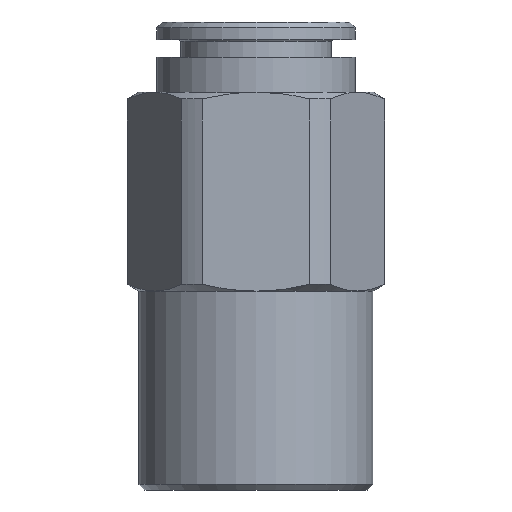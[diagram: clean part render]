
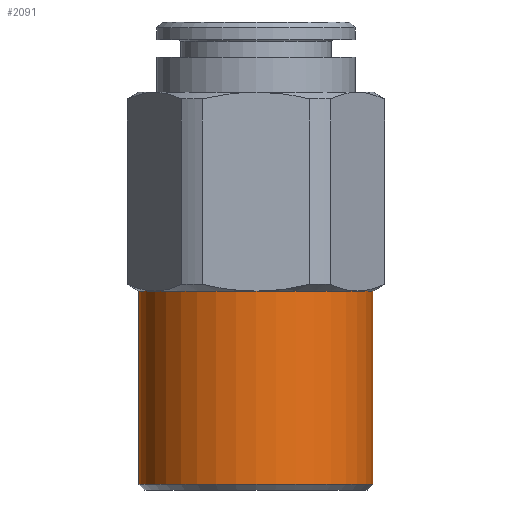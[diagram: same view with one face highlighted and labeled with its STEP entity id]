
A CAD part, front view. The second image highlights one B-rep face of the part: STEP entity #2091.
In plain terms, the highlighted cylindrical face has radius 10 mm (diameter 20 mm), a full revolution.
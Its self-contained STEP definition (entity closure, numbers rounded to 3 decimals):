
#1022=ORIENTED_EDGE('',*,*,#1274,.T.);
#1023=ORIENTED_EDGE('',*,*,#1272,.F.);
#1024=ORIENTED_EDGE('',*,*,#1275,.F.);
#1025=ORIENTED_EDGE('',*,*,#1276,.T.);
#1026=ORIENTED_EDGE('',*,*,#1277,.T.);
#1027=ORIENTED_EDGE('',*,*,#1278,.F.);
#1028=ORIENTED_EDGE('',*,*,#1279,.F.);
#1156=CIRCLE('',#1985,10.);
#1157=CIRCLE('',#1988,10.);
#1158=CIRCLE('',#1989,10.);
#1159=CIRCLE('',#1990,10.);
#1160=CIRCLE('',#1991,10.);
#1161=CIRCLE('',#1992,10.);
#1162=CIRCLE('',#1993,10.);
#1207=VERTEX_POINT('',#1815);
#1209=VERTEX_POINT('',#1823);
#1210=VERTEX_POINT('',#1827);
#1211=VERTEX_POINT('',#1829);
#1212=VERTEX_POINT('',#1831);
#1213=VERTEX_POINT('',#1833);
#1214=VERTEX_POINT('',#1835);
#1272=EDGE_CURVE('',#1207,#1209,#1156,.T.);
#1274=EDGE_CURVE('',#1210,#1210,#1157,.T.);
#1275=EDGE_CURVE('',#1211,#1207,#1158,.T.);
#1276=EDGE_CURVE('',#1211,#1212,#1159,.T.);
#1277=EDGE_CURVE('',#1212,#1213,#1160,.T.);
#1278=EDGE_CURVE('',#1214,#1213,#1161,.T.);
#1279=EDGE_CURVE('',#1209,#1214,#1162,.T.);
#1363=EDGE_LOOP('',(#1022));
#1364=EDGE_LOOP('',(#1023,#1024,#1025,#1026,#1027,#1028));
#1437=FACE_BOUND('',#1363,.T.);
#1438=FACE_BOUND('',#1364,.T.);
#1586=DIRECTION('',(0.,1.,0.));
#1587=DIRECTION('',(0.,0.,10.));
#1590=DIRECTION('',(0.,1.,0.));
#1591=DIRECTION('',(1.,0.,0.));
#1592=DIRECTION('',(0.,1.,0.));
#1593=DIRECTION('',(0.,0.,10.));
#1594=DIRECTION('',(0.,1.,0.));
#1595=DIRECTION('',(0.,0.,10.));
#1596=DIRECTION('',(0.,-1.,0.));
#1597=DIRECTION('',(0.,0.,10.));
#1598=DIRECTION('',(0.,-1.,0.));
#1599=DIRECTION('',(0.,0.,10.));
#1600=DIRECTION('',(0.,1.,0.));
#1601=DIRECTION('',(0.,0.,10.));
#1602=DIRECTION('',(0.,1.,0.));
#1603=DIRECTION('',(0.,0.,10.));
#1815=CARTESIAN_POINT('',(0.,17.,10.));
#1823=CARTESIAN_POINT('',(8.66,17.,5.));
#1824=CARTESIAN_POINT('',(0.,17.,0.));
#1826=CARTESIAN_POINT('',(0.,0.5,0.));
#1827=CARTESIAN_POINT('',(0.,0.5,10.));
#1828=CARTESIAN_POINT('',(0.,0.5,0.));
#1829=CARTESIAN_POINT('',(-8.66,17.,5.));
#1830=CARTESIAN_POINT('',(0.,17.,0.));
#1831=CARTESIAN_POINT('',(-8.66,17.,-5.));
#1832=CARTESIAN_POINT('',(0.,17.,0.));
#1833=CARTESIAN_POINT('',(0.,17.,-10.));
#1834=CARTESIAN_POINT('',(0.,17.,0.));
#1835=CARTESIAN_POINT('',(8.66,17.,-5.));
#1836=CARTESIAN_POINT('',(0.,17.,0.));
#1837=CARTESIAN_POINT('',(0.,17.,0.));
#1985=AXIS2_PLACEMENT_3D('',#1824,#1586,#1587);
#1987=AXIS2_PLACEMENT_3D('',#1826,#1590,#1591);
#1988=AXIS2_PLACEMENT_3D('',#1828,#1592,#1593);
#1989=AXIS2_PLACEMENT_3D('',#1830,#1594,#1595);
#1990=AXIS2_PLACEMENT_3D('',#1832,#1596,#1597);
#1991=AXIS2_PLACEMENT_3D('',#1834,#1598,#1599);
#1992=AXIS2_PLACEMENT_3D('',#1836,#1600,#1601);
#1993=AXIS2_PLACEMENT_3D('',#1837,#1602,#1603);
#2061=CYLINDRICAL_SURFACE('',#1987,10.);
#2091=ADVANCED_FACE('',(#1437,#1438),#2061,.T.);
